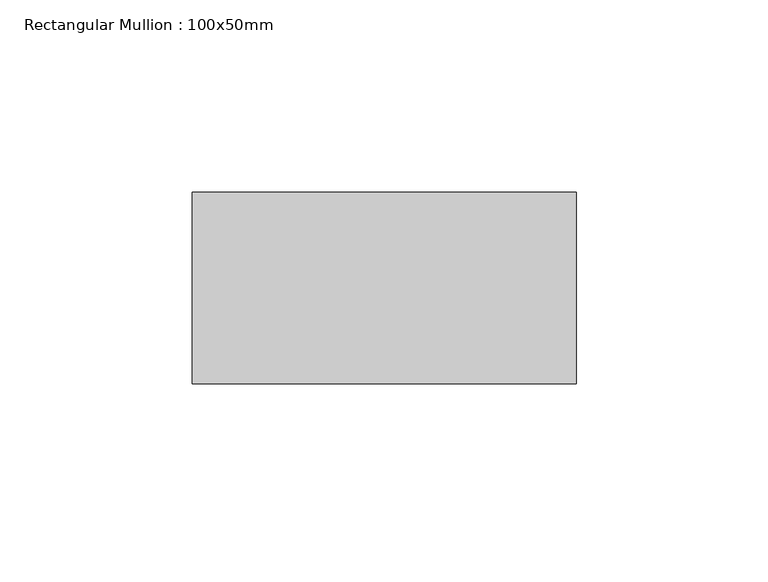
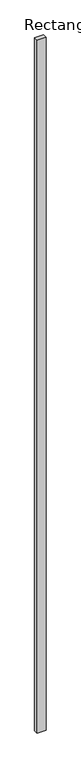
"""IFC4 building model written with IfcOpenShell, lengths in millimetres: member geometry, Rectangular Mullion : 100x50mm."""

from ifc_helpers import new_model, si_unit, frame, origin, place, context, project, spatial, polyline, outline, extrude, source, transform, mapped, element, save


def rectangular_mullion_100x50mm_0ddb72e9(model_context):
    return source(origin(), model_context, "Body", "SweptSolid", [
        extrude(outline(polyline([(50.0, 25.0), (50.0, -25.0), (-50.0, -25.0), (-50.0, 25.0), (50.0, 25.0)])), frame((0.0, 0.0, -8412.427742), z_axis=(0.0, 0.0, 1.0), x_axis=(1.0, 0.0, 0.0)), (0.0, 0.0, 1.0), 8412.427742),
    ])


if __name__ == "__main__":
    model = new_model("IFC4")
    model_context = context("Model", 3, world=origin())
    ifc_project = project(units=[si_unit("LENGTHUNIT", "METRE", prefix="MILLI")], contexts=[model_context])
    site = spatial("IfcSite", under=ifc_project)
    building = spatial("IfcBuilding", under=site)
    placement = place(None, origin())
    rectangular_mullion_100x50mm_shape = rectangular_mullion_100x50mm_0ddb72e9(model_context)
    element("IfcMember", 1, ObjectType="Rectangular Mullion : 100x50mm", at=placement, inside=building, context=model_context, shape_type="MappedRepresentation", body=[
        mapped(rectangular_mullion_100x50mm_shape, transform((0.0, 0.0, 0.0), x_axis=(1.0, 0.0, 0.0), y_axis=(0.0, 1.0, 0.0), z_axis=(0.0, 0.0, 1.0))),
    ])
    save(model, "model.ifc")
